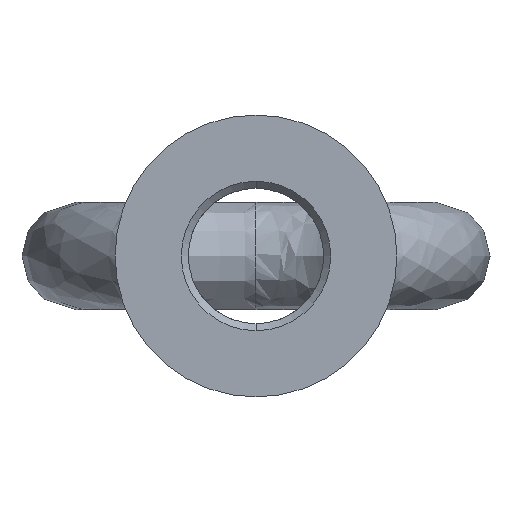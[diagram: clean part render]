
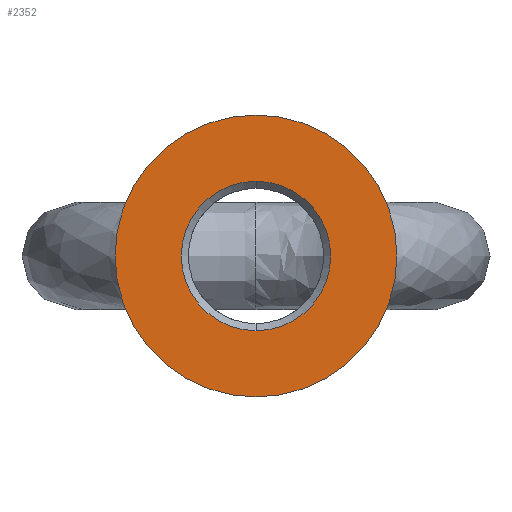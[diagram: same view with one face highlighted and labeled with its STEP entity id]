
A CAD part, front view. The second image highlights one B-rep face of the part: STEP entity #2352.
In plain terms, the highlighted planar face has unit normal (0, -1, 0).
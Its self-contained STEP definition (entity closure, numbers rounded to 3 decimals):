
#283 = CARTESIAN_POINT ( 'NONE',  ( 0., 0., 0. ) ) ;
#416 = CARTESIAN_POINT ( 'NONE',  ( 0., 0., -26.5 ) ) ;
#462 = CIRCLE ( 'NONE', #745, 50. ) ;
#571 = CIRCLE ( 'NONE', #2262, 50. ) ;
#634 = DIRECTION ( 'NONE',  ( 0., 1., 0. ) ) ;
#710 = VERTEX_POINT ( 'NONE', #416 ) ;
#745 = AXIS2_PLACEMENT_3D ( 'NONE', #3202, #2893, #3186 ) ;
#771 = ORIENTED_EDGE ( 'NONE', *, *, #2616, .F. ) ;
#808 = CIRCLE ( 'NONE', #1811, 26.5 ) ;
#1176 = CARTESIAN_POINT ( 'NONE',  ( 0., 0., 0. ) ) ;
#1355 = DIRECTION ( 'NONE',  ( 0., 1., 0. ) ) ;
#1377 = VERTEX_POINT ( 'NONE', #1823 ) ;
#1450 = DIRECTION ( 'NONE',  ( 0., 1., 0. ) ) ;
#1468 = DIRECTION ( 'NONE',  ( 0., 0., 1. ) ) ;
#1476 = AXIS2_PLACEMENT_3D ( 'NONE', #2008, #634, #2196 ) ;
#1578 = DIRECTION ( 'NONE',  ( 0., -1., 0. ) ) ;
#1709 = EDGE_CURVE ( 'NONE', #710, #1377, #808, .T. ) ;
#1780 = PLANE ( 'NONE',  #3320 ) ;
#1798 = VERTEX_POINT ( 'NONE', #3088 ) ;
#1811 = AXIS2_PLACEMENT_3D ( 'NONE', #283, #1355, #1906 ) ;
#1823 = CARTESIAN_POINT ( 'NONE',  ( 0., 0., 26.5 ) ) ;
#1906 = DIRECTION ( 'NONE',  ( 0., 0., -1. ) ) ;
#1974 = EDGE_CURVE ( 'NONE', #2453, #1798, #571, .T. ) ;
#2008 = CARTESIAN_POINT ( 'NONE',  ( 0., 0., 0. ) ) ;
#2091 = CIRCLE ( 'NONE', #1476, 26.5 ) ;
#2196 = DIRECTION ( 'NONE',  ( 0., 0., -1. ) ) ;
#2262 = AXIS2_PLACEMENT_3D ( 'NONE', #2792, #1450, #1468 ) ;
#2272 = CARTESIAN_POINT ( 'NONE',  ( 0., 0., 50. ) ) ;
#2352 = ADVANCED_FACE ( 'NONE', ( #2837, #2914 ), #1780, .T. ) ;
#2385 = ORIENTED_EDGE ( 'NONE', *, *, #1709, .T. ) ;
#2453 = VERTEX_POINT ( 'NONE', #2272 ) ;
#2616 = EDGE_CURVE ( 'NONE', #1798, #2453, #462, .T. ) ;
#2671 = EDGE_LOOP ( 'NONE', ( #771, #3406 ) ) ;
#2792 = CARTESIAN_POINT ( 'NONE',  ( 0., 0., 0. ) ) ;
#2837 = FACE_BOUND ( 'NONE', #3116, .T. ) ;
#2893 = DIRECTION ( 'NONE',  ( 0., 1., 0. ) ) ;
#2914 = FACE_OUTER_BOUND ( 'NONE', #2671, .T. ) ;
#3088 = CARTESIAN_POINT ( 'NONE',  ( 0., 0., -50. ) ) ;
#3116 = EDGE_LOOP ( 'NONE', ( #2385, #3182 ) ) ;
#3182 = ORIENTED_EDGE ( 'NONE', *, *, #3307, .T. ) ;
#3186 = DIRECTION ( 'NONE',  ( 0., 0., 1. ) ) ;
#3202 = CARTESIAN_POINT ( 'NONE',  ( 0., 0., 0. ) ) ;
#3307 = EDGE_CURVE ( 'NONE', #1377, #710, #2091, .T. ) ;
#3320 = AXIS2_PLACEMENT_3D ( 'NONE', #1176, #1578, #3353 ) ;
#3353 = DIRECTION ( 'NONE',  ( 0., 0., -1. ) ) ;
#3406 = ORIENTED_EDGE ( 'NONE', *, *, #1974, .F. ) ;
